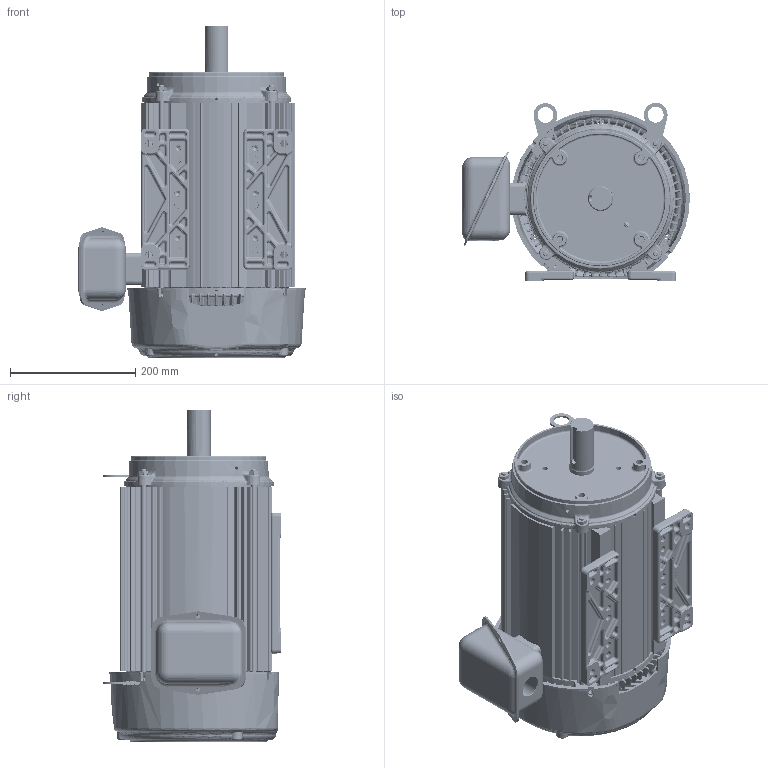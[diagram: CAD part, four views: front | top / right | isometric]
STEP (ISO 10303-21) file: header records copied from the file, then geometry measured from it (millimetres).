
FILE_DESCRIPTION((''),'2;1');
FILE_NAME('IEC_132_NON_FLNG_ASM','2023-09-19T08:40:33',('EMD2341'),('Nidec Motor Corporation'),'CREO PARAMETRIC BY PTC INC, 2022124','CREO PARAMETRIC BY PTC INC, 2022124','');
FILE_SCHEMA(('CONFIG_CONTROL_DESIGN'));
Length unit declared in the file: inch
Products named in the file (18): 0392316_AF0; 0375083-BKT_AF1; 2033996-002_AF0; 0375084_ASM; 0380744-BKT_AF1; 0298013_AF1; 0380745_ASM; 0345787; 2012258; 0390920; 0376890; 0362111; 0379632; 0041590; 0398344; 0398343; 0361369; IEC_132_NON_FLNG_ASM
Assembly tree (25 placements, depth 3):
  IEC_132_NON_FLNG_ASM
    0392316_AF0
    0375084_ASM
      0375083-BKT_AF1
      2033996-002_AF0
    0380745_ASM
      0380744-BKT_AF1
      0298013_AF1
    0345787
    2012258
    0390920
    0376890  x2
    0362111
    0379632  x4
    0041590  x4
    0398344
    0398343
    0361369  x2
Bounding box: 364.2 x 284.65 x 530.97 mm (x, y, z)
Volume: 4302546.2 mm3; surface area: 1705278.3 mm2
Topology: 25 solids, 29 shells, 6656 faces, 15835 edges, 9222 vertices
Faces by surface type: bspline 2728, cylinder 1448, plane 1280, torus 504, cone 375, sphere 297, extrusion 24
Entity records: 309658 total; most frequent: CARTESIAN_POINT 188188, ORIENTED_EDGE 28930, DIRECTION 20679, EDGE_CURVE 14473, AXIS2_PLACEMENT_3D 8721, VERTEX_POINT 8448, EDGE_LOOP 6271, FACE_OUTER_BOUND 6061
